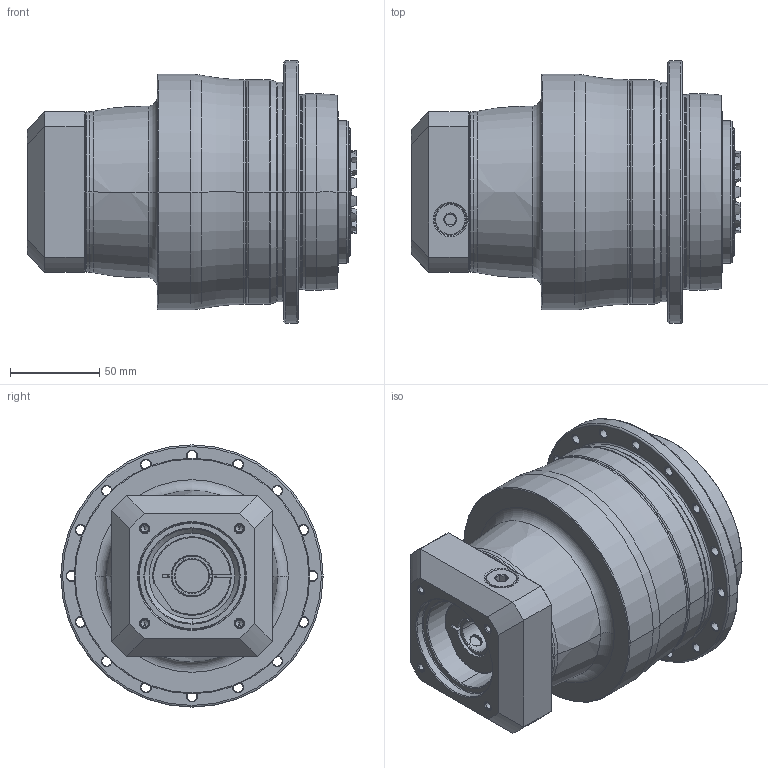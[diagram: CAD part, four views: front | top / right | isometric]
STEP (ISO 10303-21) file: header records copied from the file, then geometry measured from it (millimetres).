
FILE_DESCRIPTION((''),'2;1');
FILE_NAME('APC110_3ST_19-P0409400201_ASM','2018-07-02T',('d01226'),(''),'PRO/ENGINEER BY PARAMETRIC TECHNOLOGY CORPORATION, 2008410','PRO/ENGINEER BY PARAMETRIC TECHNOLOGY CORPORATION, 2008410','');
FILE_SCHEMA(('CONFIG_CONTROL_DESIGN'));
Length unit declared in the file: millimetre
Products named in the file (9): P0278401003; P03594C0103; P1366400301; P0503400006; P0912203001; P1211400001; P0409400201; 21711412017; APC110_3ST_19-P0409400201_ASM
Assembly tree (8 placements, depth 2):
  APC110_3ST_19-P0409400201_ASM
    P0278401003
    P03594C0103
    P1366400301
    P0503400006
    P0912203001
    P1211400001
    P0409400201
    21711412017
Bounding box: 184.9 x 147 x 147 mm (x, y, z)
Volume: 1738886.4 mm3; surface area: 199751.1 mm2
Topology: 9 solids, 19 shells, 620 faces, 1481 edges, 901 vertices
Faces by surface type: cylinder 192, cone 190, plane 118, torus 104, bspline 16
Entity records: 22924 total; most frequent: CARTESIAN_POINT 8187, DIRECTION 3299, ORIENTED_EDGE 2884, EDGE_CURVE 1463, AXIS2_PLACEMENT_3D 1436, VERTEX_POINT 901, CIRCLE 805, EDGE_LOOP 706
